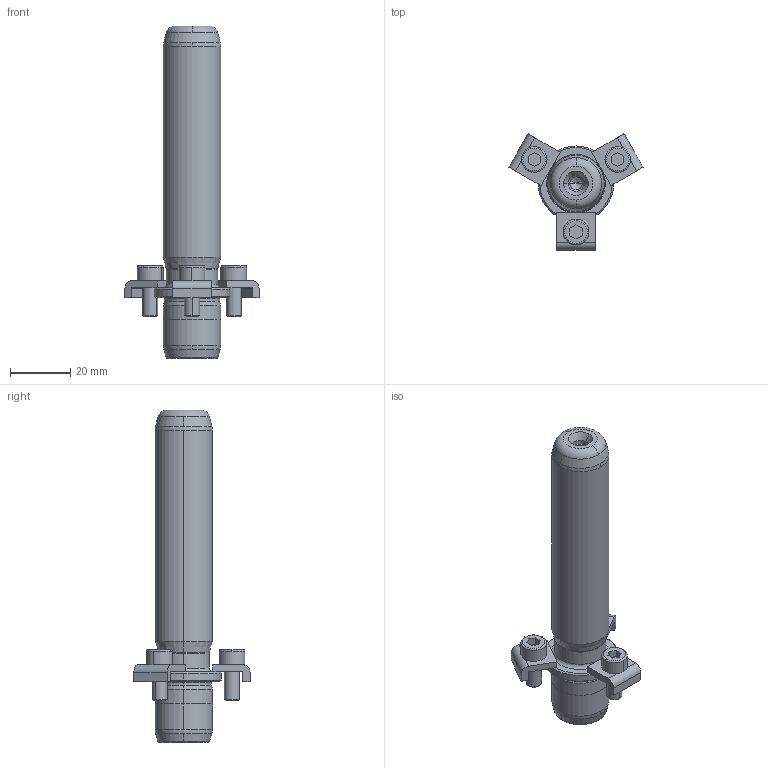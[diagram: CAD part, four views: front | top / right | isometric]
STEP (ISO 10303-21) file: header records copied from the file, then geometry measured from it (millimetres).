
FILE_DESCRIPTION((''),'2;1');
FILE_NAME('P21_019_090.stp','2008-12-18T10:50:56',(''),(''),'Mechanical Desktop 2009','Mechanical Desktop 2009',', , ');
FILE_SCHEMA(('CONFIG_CONTROL_DESIGN'));
Length unit declared in the file: millimetre
Products named in the file (2): Product; blmdl1
Assembly tree (1 placements, depth 2):
  Product
    blmdl1
Bounding box: 44.46 x 38.5 x 110 mm (x, y, z)
Volume: 32906.6 mm3; surface area: 10691.2 mm2
Topology: 7 solids, 7 shells, 163 faces, 399 edges, 257 vertices
Faces by surface type: plane 59, cylinder 44, cone 32, bspline 18, torus 10
Entity records: 5605 total; most frequent: CARTESIAN_POINT 1537, DIRECTION 900, ORIENTED_EDGE 790, EDGE_CURVE 395, AXIS2_PLACEMENT_3D 358, VERTEX_POINT 257, CIRCLE 211, VECTOR 184
